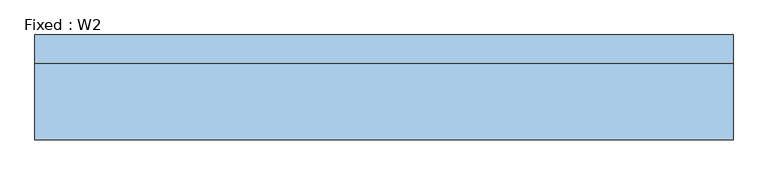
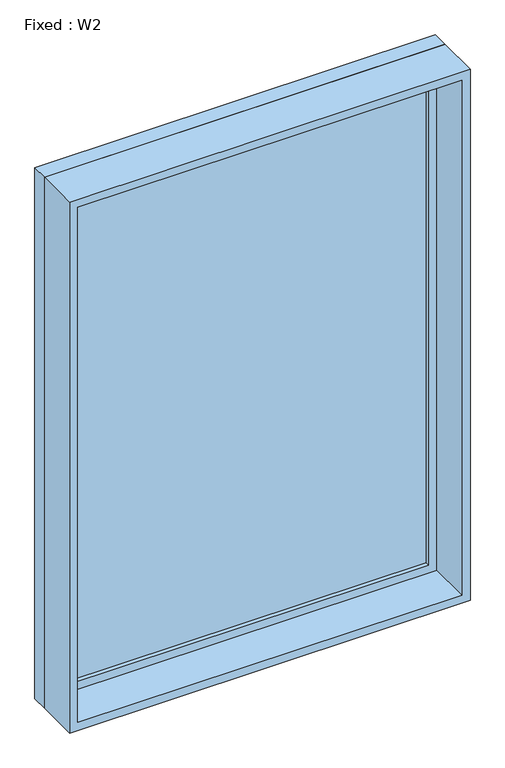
"""IFC4 building model written with IfcOpenShell, lengths in millimetres: window geometry, Fixed : W2."""

from ifc_helpers import new_model, si_unit, frame, origin, place, context, project, spatial, polyline, outline, extrude, source, transform, mapped, element, save


def fixed_w2_d0e34ccd(model_context):
    return source(origin(), model_context, "Body", "SweptSolid", [
        extrude(outline(polyline([(660.4, 66.675), (-736.6, 66.675), (-736.6, 79.375), (660.4, 79.375), (660.4, 66.675)])), frame((0.0, 0.0, 977.9), z_axis=(0.0, 0.0, 1.0), x_axis=(1.0, 0.0, 0.0)), (0.0, 0.0, 1.0), 2006.6),
        extrude(outline(polyline([(3028.95, -781.05), (933.45, -781.05), (933.45, 704.85), (3028.95, 704.85), (3028.95, -781.05)]), holes=[polyline([(2984.5, -736.6), (2984.5, 660.4), (977.9, 660.4), (977.9, -736.6), (2984.5, -736.6)])]), frame((0.0, 50.8, 0.0), z_axis=(0.0, 1.0, 0.0), x_axis=(0.0, 0.0, 1.0)), (0.0, 0.0, 1.0), 44.45),
        extrude(outline(polyline([(3048.0, -800.1), (914.4, -800.1), (914.4, 723.9), (3048.0, 723.9), (3048.0, -800.1)]), holes=[polyline([(3016.25, -768.35), (3016.25, 692.15), (946.15, 692.15), (946.15, -768.35), (3016.25, -768.35)])]), frame((0.0, -114.3, 0.0), z_axis=(0.0, 1.0, 0.0), x_axis=(0.0, 0.0, 1.0)), (0.0, 0.0, 1.0), 165.1),
        extrude(outline(polyline([(3048.0, 723.9), (3048.0, -800.1), (914.4, -800.1), (914.4, 723.9), (3048.0, 723.9)]), holes=[polyline([(3028.95, 704.85), (933.45, 704.85), (933.45, -781.05), (3028.95, -781.05), (3028.95, 704.85)])]), frame((0.0, 50.8, 0.0), z_axis=(0.0, 1.0, 0.0), x_axis=(0.0, 0.0, 1.0)), (0.0, 0.0, 1.0), 63.5),
    ])


if __name__ == "__main__":
    model = new_model("IFC4")
    model_context = context("Model", 3, world=origin())
    ifc_project = project(units=[si_unit("LENGTHUNIT", "METRE", prefix="MILLI")], contexts=[model_context])
    site = spatial("IfcSite", under=ifc_project)
    building = spatial("IfcBuilding", under=site)
    placement = place(None, origin())
    fixed_w2_shape = fixed_w2_d0e34ccd(model_context)
    element("IfcWindow", 1, ObjectType="Fixed : W2", at=placement, inside=building, context=model_context, shape_type="MappedRepresentation", body=[
        mapped(fixed_w2_shape, transform((0.0, 0.0, 0.0), x_axis=(1.0, 0.0, 0.0), y_axis=(0.0, 1.0, 0.0), z_axis=(0.0, 0.0, 1.0))),
    ])
    save(model, "model.ifc")
